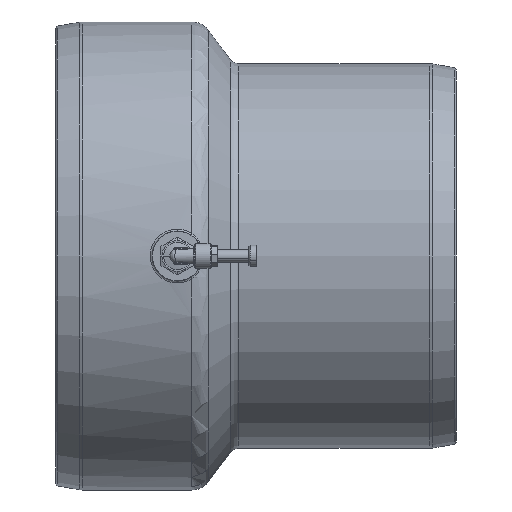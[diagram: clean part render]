
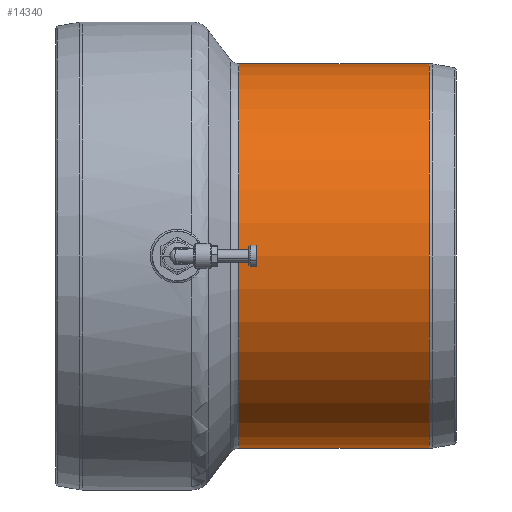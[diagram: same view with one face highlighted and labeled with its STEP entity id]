
A CAD part, front view. The second image highlights one B-rep face of the part: STEP entity #14340.
In plain terms, the highlighted cylindrical face has radius 92.8 mm (diameter 185.6 mm), a partial arc.
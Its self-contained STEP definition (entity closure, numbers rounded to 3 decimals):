
#1894 = EDGE_CURVE ( 'NONE', #21735, #26052, #19103, .T. ) ;
#4002 = CYLINDRICAL_SURFACE ( 'NONE', #9756, 92.8 ) ;
#6313 = AXIS2_PLACEMENT_3D ( 'NONE', #11460, #24659, #11606 ) ;
#6391 = CARTESIAN_POINT ( 'NONE',  ( -105.249, 0., 92.8 ) ) ;
#6394 = DIRECTION ( 'NONE',  ( 0., 0., 1. ) ) ;
#6660 = CARTESIAN_POINT ( 'NONE',  ( 16.622, 0., 92.8 ) ) ;
#7370 = ORIENTED_EDGE ( 'NONE', *, *, #8982, .T. ) ;
#8881 = LINE ( 'NONE', #24006, #21602 ) ;
#8982 = EDGE_CURVE ( 'NONE', #9193, #21735, #19739, .T. ) ;
#9193 = VERTEX_POINT ( 'NONE', #22977 ) ;
#9756 = AXIS2_PLACEMENT_3D ( 'NONE', #18103, #12912, #6394 ) ;
#11460 = CARTESIAN_POINT ( 'NONE',  ( 16.622, 0., 0. ) ) ;
#11604 = CARTESIAN_POINT ( 'NONE',  ( 108.625, 0., 0. ) ) ;
#11606 = DIRECTION ( 'NONE',  ( 0., 0., 1. ) ) ;
#12607 = ORIENTED_EDGE ( 'NONE', *, *, #28897, .F. ) ;
#12912 = DIRECTION ( 'NONE',  ( -1., 0., 0. ) ) ;
#13064 = CIRCLE ( 'NONE', #15447, 92.8 ) ;
#13212 = DIRECTION ( 'NONE',  ( -1., 0., 0. ) ) ;
#13837 = DIRECTION ( 'NONE',  ( -1., 0., 0. ) ) ;
#14179 = EDGE_CURVE ( 'NONE', #24568, #9193, #13064, .T. ) ;
#14340 = ADVANCED_FACE ( 'NONE', ( #24475 ), #4002, .T. ) ;
#15416 = ORIENTED_EDGE ( 'NONE', *, *, #14179, .T. ) ;
#15447 = AXIS2_PLACEMENT_3D ( 'NONE', #11604, #13837, #16070 ) ;
#16070 = DIRECTION ( 'NONE',  ( 0., 0., -1. ) ) ;
#18103 = CARTESIAN_POINT ( 'NONE',  ( -105.249, 0., 0. ) ) ;
#18267 = ORIENTED_EDGE ( 'NONE', *, *, #1894, .T. ) ;
#19103 = CIRCLE ( 'NONE', #6313, 92.8 ) ;
#19739 = LINE ( 'NONE', #6391, #19750 ) ;
#19750 = VECTOR ( 'NONE', #13212, 1000. ) ;
#20005 = DIRECTION ( 'NONE',  ( -1., 0., 0. ) ) ;
#21602 = VECTOR ( 'NONE', #20005, 1000. ) ;
#21735 = VERTEX_POINT ( 'NONE', #6660 ) ;
#22977 = CARTESIAN_POINT ( 'NONE',  ( 108.625, 0., 92.8 ) ) ;
#24006 = CARTESIAN_POINT ( 'NONE',  ( -105.249, 0., -92.8 ) ) ;
#24475 = FACE_OUTER_BOUND ( 'NONE', #27215, .T. ) ;
#24568 = VERTEX_POINT ( 'NONE', #25892 ) ;
#24659 = DIRECTION ( 'NONE',  ( 1., 0., 0. ) ) ;
#25892 = CARTESIAN_POINT ( 'NONE',  ( 108.625, 0., -92.8 ) ) ;
#26052 = VERTEX_POINT ( 'NONE', #27083 ) ;
#27083 = CARTESIAN_POINT ( 'NONE',  ( 16.622, 0., -92.8 ) ) ;
#27215 = EDGE_LOOP ( 'NONE', ( #12607, #15416, #7370, #18267 ) ) ;
#28897 = EDGE_CURVE ( 'NONE', #24568, #26052, #8881, .T. ) ;
